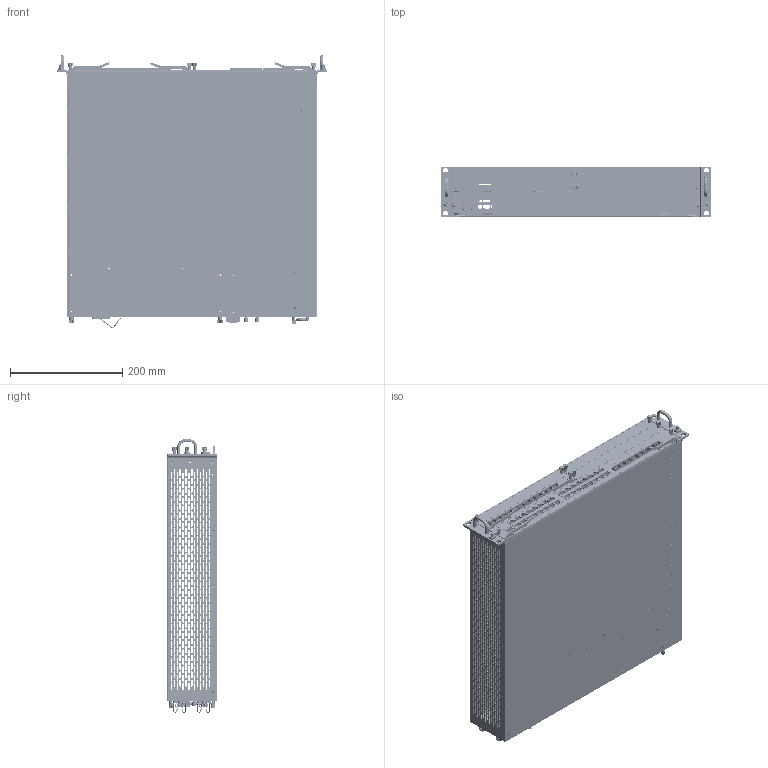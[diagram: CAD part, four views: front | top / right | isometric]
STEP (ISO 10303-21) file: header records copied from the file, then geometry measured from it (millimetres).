
FILE_DESCRIPTION(('TFLEX Exchange Step'),'2;1');
FILE_NAME('STK-EX-07-6000-C-CHASSIS.stp', '2025-01-30T12:42:33+03:00',('Yuriy Romanov'),('Unknown organisation'),'TFLEX Exchange 2023.2','T-FLEX CAD','Unknown authorisation');
FILE_SCHEMA( ('AUTOMOTIVE_DESIGN { 1 0 10303 214 1 1 1 1 }') );
Length unit declared in the file: millimetre
Products named in the file (1): STK-EX-07-6000-C-CHASSIS
Bounding box: 482 x 88.8 x 486.33 mm (x, y, z)
Volume: 487070.7 mm3; surface area: 1234907.2 mm2
Topology: 310 solids, 310 shells, 13527 faces, 38434 edges, 25725 vertices
Faces by surface type: plane 7965, cylinder 4365, cone 1066, sphere 55, torus 48, bspline 24, extrusion 4
Full cylindrical faces by diameter (mm): 1 x6, 1.519 x16, 1.6 x4, 2 x34, 2.5 x17, 3 x30, 3.006 x4, 3.2 x2, 3.5 x37, 4 x14, 4.1 x10, 4.4 x2, 4.73 x4, 4.75 x4, 4.8 x12, 5 x18, 5.247 x2, 5.3 x12, 5.4 x2, 5.5 x85, 5.8 x5, 6.354 x4, 6.8 x14, 7.413 x4, 8.2 x2, 9 x2
Entity records: 457206 total; most frequent: CARTESIAN_POINT 95637, ORIENTED_EDGE 76804, DIRECTION 73187, EDGE_CURVE 38402, VERTEX_POINT 25725, AXIS2_PLACEMENT_3D 24956, VECTOR 23275, LINE 23271
